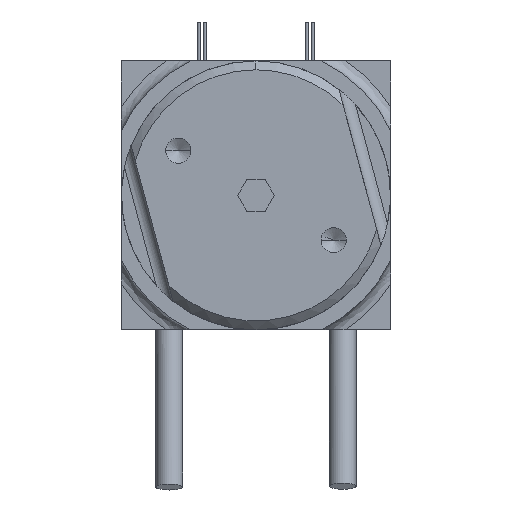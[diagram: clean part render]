
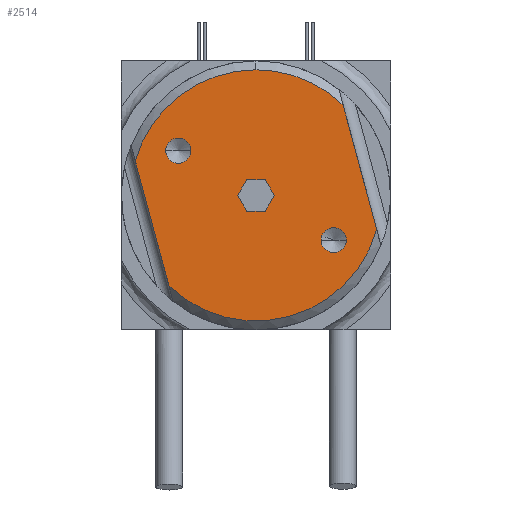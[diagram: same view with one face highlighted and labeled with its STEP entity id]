
A CAD part, front view. The second image highlights one B-rep face of the part: STEP entity #2514.
In plain terms, the highlighted planar face has unit normal (0, -1, 0).
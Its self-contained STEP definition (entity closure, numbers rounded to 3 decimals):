
#100 = CARTESIAN_POINT ( 'NONE',  ( -1.531, 0., -2.652 ) ) ;
#307 = VERTEX_POINT ( 'NONE', #8030 ) ;
#499 = CIRCLE ( 'NONE', #17615, 21. ) ;
#556 = VERTEX_POINT ( 'NONE', #3226 ) ;
#774 = CARTESIAN_POINT ( 'NONE',  ( -15.102, 0., 7.479 ) ) ;
#1166 = DIRECTION ( 'NONE',  ( -0.26, 0., 0.966 ) ) ;
#1279 = CARTESIAN_POINT ( 'NONE',  ( 14.563, 0., 15.13 ) ) ;
#1554 = VERTEX_POINT ( 'NONE', #100 ) ;
#1963 = CARTESIAN_POINT ( 'NONE',  ( 1.531, 0., -2.652 ) ) ;
#2101 = AXIS2_PLACEMENT_3D ( 'NONE', #15639, #12053, #8527 ) ;
#2194 = VECTOR ( 'NONE', #10047, 1000. ) ;
#2356 = EDGE_CURVE ( 'NONE', #10919, #556, #18250, .T. ) ;
#2375 = VERTEX_POINT ( 'NONE', #9158 ) ;
#2514 = ADVANCED_FACE ( 'NONE', ( #13192, #8598, #16403, #12649 ), #7265, .T. ) ;
#2572 = DIRECTION ( 'NONE',  ( 0., 1., 0. ) ) ;
#2581 = CIRCLE ( 'NONE', #11061, 2.1 ) ;
#2626 = LINE ( 'NONE', #9728, #17339 ) ;
#2681 = EDGE_CURVE ( 'NONE', #15939, #4252, #21713, .T. ) ;
#2803 = DIRECTION ( 'NONE',  ( 1., 0., 0. ) ) ;
#3050 = DIRECTION ( 'NONE',  ( 0., 1., 0. ) ) ;
#3226 = CARTESIAN_POINT ( 'NONE',  ( 0., 0., 21. ) ) ;
#3511 = VERTEX_POINT ( 'NONE', #1963 ) ;
#3699 = VERTEX_POINT ( 'NONE', #774 ) ;
#4252 = VERTEX_POINT ( 'NONE', #5911 ) ;
#4386 = DIRECTION ( 'NONE',  ( 0., -1., 0. ) ) ;
#4415 = AXIS2_PLACEMENT_3D ( 'NONE', #17669, #19382, #21019 ) ;
#4767 = DIRECTION ( 'NONE',  ( 0., 0., 1. ) ) ;
#5266 = EDGE_CURVE ( 'NONE', #556, #19810, #499, .T. ) ;
#5359 = EDGE_LOOP ( 'NONE', ( #6473, #19517 ) ) ;
#5495 = EDGE_LOOP ( 'NONE', ( #15755, #11548 ) ) ;
#5578 = ORIENTED_EDGE ( 'NONE', *, *, #2681, .T. ) ;
#5673 = DIRECTION ( 'NONE',  ( -0.5, 0., 0.866 ) ) ;
#5911 = CARTESIAN_POINT ( 'NONE',  ( -1.531, 0., 2.652 ) ) ;
#6378 = CARTESIAN_POINT ( 'NONE',  ( 20.196, 0., -5.757 ) ) ;
#6402 = AXIS2_PLACEMENT_3D ( 'NONE', #17584, #9529, #12977 ) ;
#6473 = ORIENTED_EDGE ( 'NONE', *, *, #15862, .F. ) ;
#6929 = CIRCLE ( 'NONE', #2101, 2.1 ) ;
#7147 = CARTESIAN_POINT ( 'NONE',  ( -4.149, 0., 2.652 ) ) ;
#7265 = PLANE ( 'NONE',  #6402 ) ;
#7350 = ORIENTED_EDGE ( 'NONE', *, *, #8925, .T. ) ;
#7770 = CARTESIAN_POINT ( 'NONE',  ( 3.063, 0., 0. ) ) ;
#7870 = CARTESIAN_POINT ( 'NONE',  ( 0., 0., 0. ) ) ;
#8014 = CARTESIAN_POINT ( 'NONE',  ( -13.002, 0., 7.479 ) ) ;
#8030 = CARTESIAN_POINT ( 'NONE',  ( 1.531, 0., 2.652 ) ) ;
#8251 = LINE ( 'NONE', #14236, #15509 ) ;
#8341 = EDGE_LOOP ( 'NONE', ( #15288, #17660, #21647, #21180, #10351 ) ) ;
#8385 = EDGE_CURVE ( 'NONE', #3699, #17032, #11178, .T. ) ;
#8527 = DIRECTION ( 'NONE',  ( 1., 0., 0. ) ) ;
#8594 = LINE ( 'NONE', #7147, #21709 ) ;
#8598 = FACE_BOUND ( 'NONE', #5359, .T. ) ;
#8925 = EDGE_CURVE ( 'NONE', #3511, #1554, #13285, .T. ) ;
#9020 = EDGE_CURVE ( 'NONE', #2375, #11579, #2581, .T. ) ;
#9026 = DIRECTION ( 'NONE',  ( 1., 0., 0. ) ) ;
#9090 = LINE ( 'NONE', #14660, #11505 ) ;
#9158 = CARTESIAN_POINT ( 'NONE',  ( 10.902, 0., -7.479 ) ) ;
#9252 = CARTESIAN_POINT ( 'NONE',  ( -4.149, 0., -2.652 ) ) ;
#9529 = DIRECTION ( 'NONE',  ( 0., -1., 0. ) ) ;
#9652 = CARTESIAN_POINT ( 'NONE',  ( 13.002, 0., -7.479 ) ) ;
#9728 = CARTESIAN_POINT ( 'NONE',  ( -14.563, 0., -15.13 ) ) ;
#10024 = AXIS2_PLACEMENT_3D ( 'NONE', #8014, #14704, #18127 ) ;
#10047 = DIRECTION ( 'NONE',  ( 0.5, 0., 0.866 ) ) ;
#10351 = ORIENTED_EDGE ( 'NONE', *, *, #12744, .F. ) ;
#10814 = CARTESIAN_POINT ( 'NONE',  ( -20.196, 0., 5.757 ) ) ;
#10919 = VERTEX_POINT ( 'NONE', #10814 ) ;
#11061 = AXIS2_PLACEMENT_3D ( 'NONE', #9652, #4386, #2803 ) ;
#11178 = CIRCLE ( 'NONE', #4415, 2.1 ) ;
#11412 = ORIENTED_EDGE ( 'NONE', *, *, #16543, .T. ) ;
#11505 = VECTOR ( 'NONE', #19818, 1000. ) ;
#11548 = ORIENTED_EDGE ( 'NONE', *, *, #8385, .F. ) ;
#11579 = VERTEX_POINT ( 'NONE', #13008 ) ;
#11601 = CARTESIAN_POINT ( 'NONE',  ( 0., 0., 0. ) ) ;
#11661 = CARTESIAN_POINT ( 'NONE',  ( -14.563, 0., -15.13 ) ) ;
#11686 = ORIENTED_EDGE ( 'NONE', *, *, #14758, .T. ) ;
#12053 = DIRECTION ( 'NONE',  ( 0., -1., 0. ) ) ;
#12125 = CARTESIAN_POINT ( 'NONE',  ( -3.063, 0., 0. ) ) ;
#12202 = VECTOR ( 'NONE', #19588, 1000. ) ;
#12649 = FACE_OUTER_BOUND ( 'NONE', #8341, .T. ) ;
#12744 = EDGE_CURVE ( 'NONE', #14076, #18182, #14827, .T. ) ;
#12977 = DIRECTION ( 'NONE',  ( 1., 0., 0. ) ) ;
#13008 = CARTESIAN_POINT ( 'NONE',  ( 15.102, 0., -7.479 ) ) ;
#13016 = AXIS2_PLACEMENT_3D ( 'NONE', #11601, #3050, #4767 ) ;
#13192 = FACE_BOUND ( 'NONE', #20029, .T. ) ;
#13285 = LINE ( 'NONE', #9252, #12202 ) ;
#14076 = VERTEX_POINT ( 'NONE', #6378 ) ;
#14212 = DIRECTION ( 'NONE',  ( -0.5, 0., -0.866 ) ) ;
#14236 = CARTESIAN_POINT ( 'NONE',  ( -1.531, 0., -2.652 ) ) ;
#14351 = VECTOR ( 'NONE', #14952, 1000. ) ;
#14534 = CARTESIAN_POINT ( 'NONE',  ( 0., 0., 0. ) ) ;
#14660 = CARTESIAN_POINT ( 'NONE',  ( 1.531, 0., 2.652 ) ) ;
#14704 = DIRECTION ( 'NONE',  ( 0., -1., 0. ) ) ;
#14739 = CARTESIAN_POINT ( 'NONE',  ( 14.563, 0., 15.13 ) ) ;
#14750 = EDGE_CURVE ( 'NONE', #4252, #307, #8594, .T. ) ;
#14758 = EDGE_CURVE ( 'NONE', #16112, #3511, #18750, .T. ) ;
#14827 = CIRCLE ( 'NONE', #15539, 21. ) ;
#14952 = DIRECTION ( 'NONE',  ( 0.26, 0., -0.966 ) ) ;
#15288 = ORIENTED_EDGE ( 'NONE', *, *, #21452, .F. ) ;
#15509 = VECTOR ( 'NONE', #5673, 1000. ) ;
#15539 = AXIS2_PLACEMENT_3D ( 'NONE', #14534, #16083, #19521 ) ;
#15639 = CARTESIAN_POINT ( 'NONE',  ( 13.002, 0., -7.479 ) ) ;
#15755 = ORIENTED_EDGE ( 'NONE', *, *, #17190, .F. ) ;
#15862 = EDGE_CURVE ( 'NONE', #11579, #2375, #6929, .T. ) ;
#15939 = VERTEX_POINT ( 'NONE', #12125 ) ;
#16009 = EDGE_CURVE ( 'NONE', #1554, #15939, #8251, .T. ) ;
#16083 = DIRECTION ( 'NONE',  ( 0., 1., 0. ) ) ;
#16112 = VERTEX_POINT ( 'NONE', #7770 ) ;
#16184 = CARTESIAN_POINT ( 'NONE',  ( -10.902, 0., 7.479 ) ) ;
#16403 = FACE_BOUND ( 'NONE', #5495, .T. ) ;
#16543 = EDGE_CURVE ( 'NONE', #307, #16112, #9090, .T. ) ;
#16996 = LINE ( 'NONE', #14739, #14351 ) ;
#17032 = VERTEX_POINT ( 'NONE', #16184 ) ;
#17190 = EDGE_CURVE ( 'NONE', #17032, #3699, #20061, .T. ) ;
#17339 = VECTOR ( 'NONE', #1166, 1000. ) ;
#17584 = CARTESIAN_POINT ( 'NONE',  ( -4.149, 0., -4.149 ) ) ;
#17615 = AXIS2_PLACEMENT_3D ( 'NONE', #7870, #2572, #18134 ) ;
#17660 = ORIENTED_EDGE ( 'NONE', *, *, #5266, .F. ) ;
#17669 = CARTESIAN_POINT ( 'NONE',  ( -13.002, 0., 7.479 ) ) ;
#18127 = DIRECTION ( 'NONE',  ( 1., 0., 0. ) ) ;
#18134 = DIRECTION ( 'NONE',  ( 0., 0., 1. ) ) ;
#18182 = VERTEX_POINT ( 'NONE', #11661 ) ;
#18250 = CIRCLE ( 'NONE', #13016, 21. ) ;
#18732 = EDGE_CURVE ( 'NONE', #18182, #10919, #2626, .T. ) ;
#18750 = LINE ( 'NONE', #21152, #19841 ) ;
#19382 = DIRECTION ( 'NONE',  ( 0., -1., 0. ) ) ;
#19517 = ORIENTED_EDGE ( 'NONE', *, *, #9020, .F. ) ;
#19521 = DIRECTION ( 'NONE',  ( -1., 0., 0. ) ) ;
#19588 = DIRECTION ( 'NONE',  ( -1., 0., 0. ) ) ;
#19810 = VERTEX_POINT ( 'NONE', #1279 ) ;
#19818 = DIRECTION ( 'NONE',  ( 0.5, 0., -0.866 ) ) ;
#19841 = VECTOR ( 'NONE', #14212, 1000. ) ;
#20029 = EDGE_LOOP ( 'NONE', ( #21682, #5578, #20255, #11412, #11686, #7350 ) ) ;
#20061 = CIRCLE ( 'NONE', #10024, 2.1 ) ;
#20255 = ORIENTED_EDGE ( 'NONE', *, *, #14750, .T. ) ;
#21019 = DIRECTION ( 'NONE',  ( 1., 0., 0. ) ) ;
#21152 = CARTESIAN_POINT ( 'NONE',  ( 3.063, 0., 0. ) ) ;
#21180 = ORIENTED_EDGE ( 'NONE', *, *, #18732, .F. ) ;
#21452 = EDGE_CURVE ( 'NONE', #19810, #14076, #16996, .T. ) ;
#21647 = ORIENTED_EDGE ( 'NONE', *, *, #2356, .F. ) ;
#21682 = ORIENTED_EDGE ( 'NONE', *, *, #16009, .T. ) ;
#21709 = VECTOR ( 'NONE', #9026, 1000. ) ;
#21713 = LINE ( 'NONE', #21913, #2194 ) ;
#21913 = CARTESIAN_POINT ( 'NONE',  ( -3.063, 0., 0. ) ) ;
